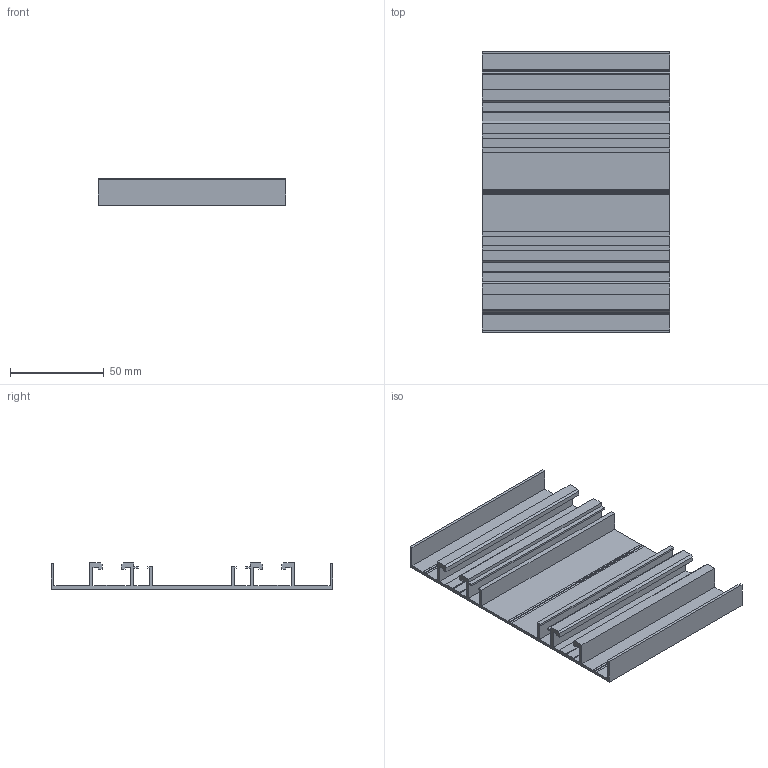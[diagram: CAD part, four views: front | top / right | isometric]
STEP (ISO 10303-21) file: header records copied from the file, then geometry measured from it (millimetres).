
FILE_DESCRIPTION (( 'STEP AP214' ), '1' );
FILE_NAME ('084.106.005.STEP', '2020-07-23T08:08:00', ( '' ), ( '' ), 'SwSTEP 2.0', 'SolidWorks 2018', '' );
FILE_SCHEMA (( 'AUTOMOTIVE_DESIGN' ));
Length unit declared in the file: millimetre
Products named in the file (1): 084.106.005
Bounding box: 100 x 150 x 14 mm (x, y, z)
Volume: 48072 mm3; surface area: 56325.4 mm2
Topology: 1 solids, 1 shells, 98 faces, 288 edges, 192 vertices
Faces by surface type: plane 98
Entity records: 3226 total; most frequent: CARTESIAN_POINT 579, ORIENTED_EDGE 576, DIRECTION 486, EDGE_CURVE 288, LINE 288, VECTOR 288, VERTEX_POINT 192, AXIS2_PLACEMENT_3D 99
